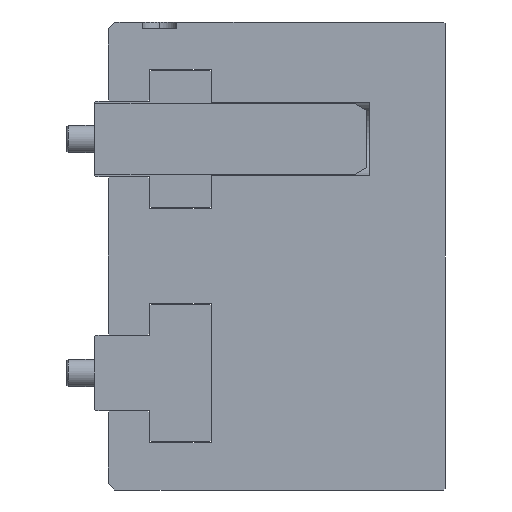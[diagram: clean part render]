
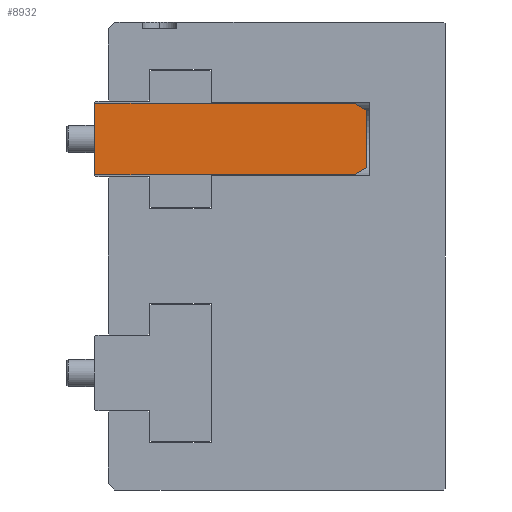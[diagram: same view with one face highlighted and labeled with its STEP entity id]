
A CAD part, left-side view. The second image highlights one B-rep face of the part: STEP entity #8932.
In plain terms, the highlighted planar face has unit normal (-1, 0, 0).
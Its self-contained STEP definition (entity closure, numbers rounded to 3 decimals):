
#438 = EDGE_CURVE ( 'NONE', #1477, #26841, #10112, .T. ) ;
#1477 = VERTEX_POINT ( 'NONE', #31711 ) ;
#1506 = VECTOR ( 'NONE', #24854, 1000. ) ;
#2126 = VERTEX_POINT ( 'NONE', #19571 ) ;
#2469 = DIRECTION ( 'NONE',  ( 0., -0.866, 0.5 ) ) ;
#2527 = VECTOR ( 'NONE', #35880, 1000. ) ;
#3473 = LINE ( 'NONE', #43059, #22597 ) ;
#3482 = CARTESIAN_POINT ( 'NONE',  ( -140., 33.499, 10.35 ) ) ;
#3714 = DIRECTION ( 'NONE',  ( 0., -1., 0. ) ) ;
#4820 = VECTOR ( 'NONE', #27113, 1000. ) ;
#6112 = EDGE_CURVE ( 'NONE', #19839, #31168, #22875, .T. ) ;
#6929 = EDGE_CURVE ( 'NONE', #31168, #26841, #33516, .T. ) ;
#8009 = EDGE_CURVE ( 'NONE', #31096, #2126, #12077, .T. ) ;
#8163 = ORIENTED_EDGE ( 'NONE', *, *, #22843, .T. ) ;
#8932 = ADVANCED_FACE ( 'NONE', ( #16560 ), #15387, .T. ) ;
#10112 = LINE ( 'NONE', #12348, #37680 ) ;
#12077 = LINE ( 'NONE', #46626, #2527 ) ;
#12348 = CARTESIAN_POINT ( 'NONE',  ( -140., 33.999, -9.85 ) ) ;
#13003 = LINE ( 'NONE', #20248, #39449 ) ;
#15387 = PLANE ( 'NONE',  #32392 ) ;
#15683 = CARTESIAN_POINT ( 'NONE',  ( -140., -45., -8.329 ) ) ;
#16560 = FACE_OUTER_BOUND ( 'NONE', #36643, .T. ) ;
#18241 = ORIENTED_EDGE ( 'NONE', *, *, #6929, .T. ) ;
#19020 = DIRECTION ( 'NONE',  ( -1., 0., 0. ) ) ;
#19363 = ORIENTED_EDGE ( 'NONE', *, *, #43136, .F. ) ;
#19571 = CARTESIAN_POINT ( 'NONE',  ( -140., -45., 8.329 ) ) ;
#19595 = DIRECTION ( 'NONE',  ( 0., 0.707, 0.707 ) ) ;
#19694 = CARTESIAN_POINT ( 'NONE',  ( -140., -45., -10.35 ) ) ;
#19839 = VERTEX_POINT ( 'NONE', #36607 ) ;
#20248 = CARTESIAN_POINT ( 'NONE',  ( -140., -41.5, -10.35 ) ) ;
#21807 = ORIENTED_EDGE ( 'NONE', *, *, #6112, .T. ) ;
#22299 = LINE ( 'NONE', #38889, #31849 ) ;
#22555 = VERTEX_POINT ( 'NONE', #46417 ) ;
#22597 = VECTOR ( 'NONE', #3714, 1000. ) ;
#22843 = EDGE_CURVE ( 'NONE', #34584, #31096, #13003, .T. ) ;
#22875 = LINE ( 'NONE', #3482, #1506 ) ;
#24854 = DIRECTION ( 'NONE',  ( 0., 0.707, -0.707 ) ) ;
#25870 = ORIENTED_EDGE ( 'NONE', *, *, #31935, .T. ) ;
#26841 = VERTEX_POINT ( 'NONE', #34822 ) ;
#26925 = DIRECTION ( 'NONE',  ( 0., 1., 0. ) ) ;
#27113 = DIRECTION ( 'NONE',  ( 0., 0., -1. ) ) ;
#27127 = CARTESIAN_POINT ( 'NONE',  ( -140., 33.999, 9.85 ) ) ;
#28156 = ORIENTED_EDGE ( 'NONE', *, *, #8009, .T. ) ;
#28223 = DIRECTION ( 'NONE',  ( 0., 0.866, 0.5 ) ) ;
#30664 = VECTOR ( 'NONE', #26925, 1000. ) ;
#30732 = CARTESIAN_POINT ( 'NONE',  ( -140., 33.999, 10.35 ) ) ;
#31096 = VERTEX_POINT ( 'NONE', #15683 ) ;
#31168 = VERTEX_POINT ( 'NONE', #27127 ) ;
#31711 = CARTESIAN_POINT ( 'NONE',  ( -140., 33.499, -10.35 ) ) ;
#31849 = VECTOR ( 'NONE', #28223, 1000. ) ;
#31935 = EDGE_CURVE ( 'NONE', #2126, #22555, #22299, .T. ) ;
#32246 = CARTESIAN_POINT ( 'NONE',  ( -140., -41.5, -10.35 ) ) ;
#32392 = AXIS2_PLACEMENT_3D ( 'NONE', #40545, #19020, #44218 ) ;
#33516 = LINE ( 'NONE', #30732, #4820 ) ;
#34584 = VERTEX_POINT ( 'NONE', #32246 ) ;
#34822 = CARTESIAN_POINT ( 'NONE',  ( -140., 33.999, -9.85 ) ) ;
#35256 = ORIENTED_EDGE ( 'NONE', *, *, #438, .F. ) ;
#35379 = EDGE_CURVE ( 'NONE', #19839, #22555, #3473, .T. ) ;
#35880 = DIRECTION ( 'NONE',  ( 0., 0., 1. ) ) ;
#36526 = ORIENTED_EDGE ( 'NONE', *, *, #35379, .F. ) ;
#36607 = CARTESIAN_POINT ( 'NONE',  ( -140., 33.499, 10.35 ) ) ;
#36643 = EDGE_LOOP ( 'NONE', ( #35256, #19363, #8163, #28156, #25870, #36526, #21807, #18241 ) ) ;
#37680 = VECTOR ( 'NONE', #19595, 1000. ) ;
#38889 = CARTESIAN_POINT ( 'NONE',  ( -140., -45., 8.329 ) ) ;
#39097 = LINE ( 'NONE', #19694, #30664 ) ;
#39449 = VECTOR ( 'NONE', #2469, 1000. ) ;
#40545 = CARTESIAN_POINT ( 'NONE',  ( -140., -45., -10.35 ) ) ;
#43059 = CARTESIAN_POINT ( 'NONE',  ( -140., -45., 10.35 ) ) ;
#43136 = EDGE_CURVE ( 'NONE', #34584, #1477, #39097, .T. ) ;
#44218 = DIRECTION ( 'NONE',  ( 0., 0., 1. ) ) ;
#46417 = CARTESIAN_POINT ( 'NONE',  ( -140., -41.5, 10.35 ) ) ;
#46626 = CARTESIAN_POINT ( 'NONE',  ( -140., -45., -10.35 ) ) ;
